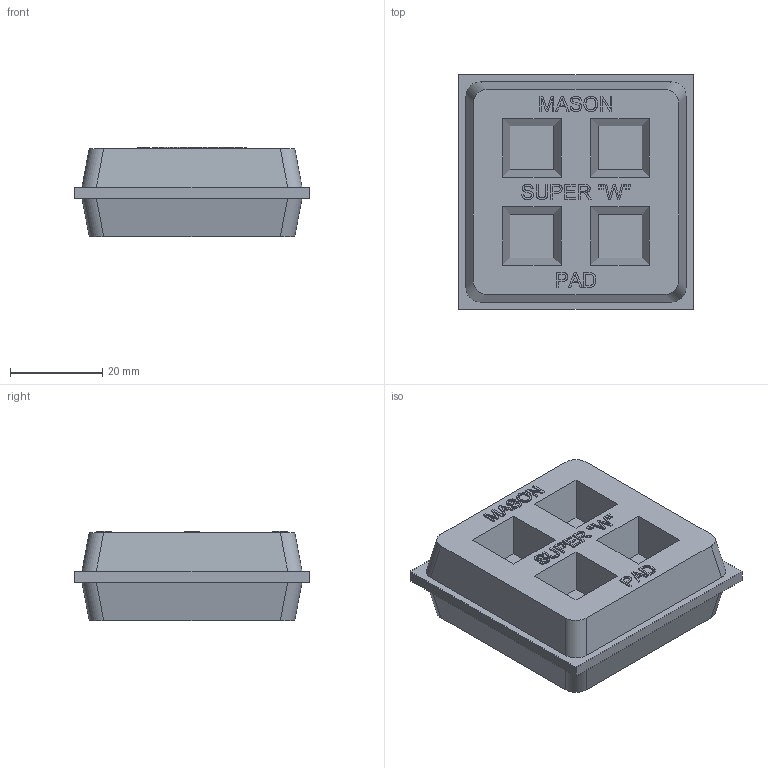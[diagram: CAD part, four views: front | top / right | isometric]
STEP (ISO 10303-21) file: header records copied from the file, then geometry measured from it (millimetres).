
FILE_DESCRIPTION(/* description */ (''),/* implementation_level */ '2;1');
FILE_NAME(/* name */ 'C:\001_Work\Designs\SUPER W PAD\SUPER W 2 x 2 x 0750 PAD.stp',/* time_stamp */ '2015-09-09T10:14:25-04:00',/* author */ ('rramoutar'),/* organization */ ('Mason Industries Inc.'),/* preprocessor_version */ 'ST-DEVELOPER v15.6',/* originating_system */ 'Autodesk Inventor 2015',/* authorisation */ '');
FILE_SCHEMA (('AUTOMOTIVE_DESIGN { 1 0 10303 214 3 1 1 }'));
Length unit declared in the file: inch
Products named in the file (1): SUPER W 2 x 2 x 0750 PER A-16596-1
Bounding box: 50.8 x 50.8 x 19.3 mm (x, y, z)
Volume: 33074.8 mm3; surface area: 10619.3 mm2
Topology: 1 solids, 1 shells, 306 faces, 807 edges, 538 vertices
Faces by surface type: plane 218, bspline 80, cylinder 8
Entity records: 10044 total; most frequent: CARTESIAN_POINT 2963, ORIENTED_EDGE 1614, DIRECTION 1117, EDGE_CURVE 807, LINE 631, VECTOR 631, VERTEX_POINT 538, EDGE_LOOP 341
